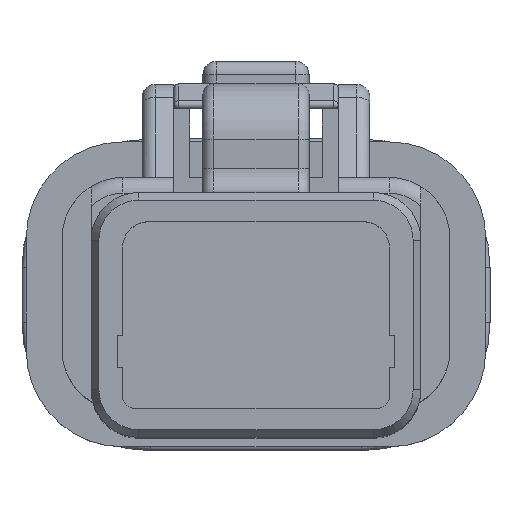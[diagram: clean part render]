
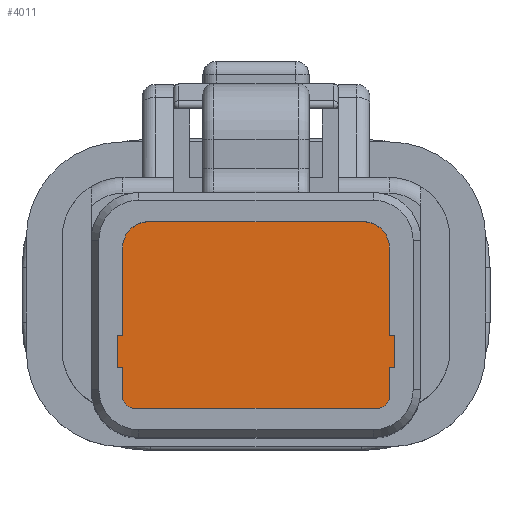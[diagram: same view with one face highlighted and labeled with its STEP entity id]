
A CAD part, top view. The second image highlights one B-rep face of the part: STEP entity #4011.
In plain terms, the highlighted planar face has unit normal (0, 0, 1).
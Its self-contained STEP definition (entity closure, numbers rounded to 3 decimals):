
#302=CARTESIAN_POINT('',(5.817,-3.886,-1.));
#303=DIRECTION('',(0.,0.,1.));
#304=DIRECTION('',(0.,-1.,0.));
#305=AXIS2_PLACEMENT_3D('',#302,#303,#304);
#307=DIRECTION('',(1.,0.,0.));
#308=VECTOR('',#307,11.633);
#309=CARTESIAN_POINT('',(-5.817,-4.47,-1.));
#310=LINE('',#309,#308);
#311=CARTESIAN_POINT('',(-5.817,-3.886,-1.));
#312=DIRECTION('',(0.,0.,1.));
#313=DIRECTION('',(-1.,0.,0.));
#314=AXIS2_PLACEMENT_3D('',#311,#312,#313);
#316=DIRECTION('',(0.,-1.,0.));
#317=VECTOR('',#316,1.372);
#318=CARTESIAN_POINT('',(-6.401,-2.515,-1.));
#319=LINE('',#318,#317);
#320=DIRECTION('',(1.,0.,0.));
#321=VECTOR('',#320,0.254);
#322=CARTESIAN_POINT('',(-6.655,-2.515,-1.));
#323=LINE('',#322,#321);
#324=DIRECTION('',(0.,-1.,0.));
#325=VECTOR('',#324,1.524);
#326=CARTESIAN_POINT('',(-6.655,-0.991,-1.));
#327=LINE('',#326,#325);
#328=DIRECTION('',(-1.,0.,0.));
#329=VECTOR('',#328,0.254);
#330=CARTESIAN_POINT('',(-6.401,-0.991,-1.));
#331=LINE('',#330,#329);
#332=DIRECTION('',(0.,-1.,0.));
#333=VECTOR('',#332,4.191);
#334=CARTESIAN_POINT('',(-6.401,3.2,-1.));
#335=LINE('',#334,#333);
#336=CARTESIAN_POINT('',(-5.131,3.2,-1.));
#337=DIRECTION('',(0.,0.,1.));
#338=DIRECTION('',(0.,1.,0.));
#339=AXIS2_PLACEMENT_3D('',#336,#337,#338);
#341=DIRECTION('',(-1.,0.,0.));
#342=VECTOR('',#341,10.262);
#343=CARTESIAN_POINT('',(5.131,4.47,-1.));
#344=LINE('',#343,#342);
#345=CARTESIAN_POINT('',(5.131,3.2,-1.));
#346=DIRECTION('',(0.,0.,1.));
#347=DIRECTION('',(1.,0.,0.));
#348=AXIS2_PLACEMENT_3D('',#345,#346,#347);
#350=DIRECTION('',(0.,1.,0.));
#351=VECTOR('',#350,4.191);
#352=CARTESIAN_POINT('',(6.401,-0.991,-1.));
#353=LINE('',#352,#351);
#354=DIRECTION('',(-1.,0.,0.));
#355=VECTOR('',#354,0.254);
#356=CARTESIAN_POINT('',(6.655,-0.991,-1.));
#357=LINE('',#356,#355);
#358=DIRECTION('',(0.,1.,0.));
#359=VECTOR('',#358,1.524);
#360=CARTESIAN_POINT('',(6.655,-2.515,-1.));
#361=LINE('',#360,#359);
#362=DIRECTION('',(1.,0.,0.));
#363=VECTOR('',#362,0.254);
#364=CARTESIAN_POINT('',(6.401,-2.515,-1.));
#365=LINE('',#364,#363);
#366=DIRECTION('',(0.,1.,0.));
#367=VECTOR('',#366,1.372);
#368=CARTESIAN_POINT('',(6.401,-3.886,-1.));
#369=LINE('',#368,#367);
#3086=CARTESIAN_POINT('',(5.817,-4.47,-1.));
#3087=CARTESIAN_POINT('',(6.401,-3.886,-1.));
#3088=VERTEX_POINT('',#3086);
#3089=VERTEX_POINT('',#3087);
#3090=CARTESIAN_POINT('',(6.401,-2.515,-1.));
#3091=VERTEX_POINT('',#3090);
#3092=CARTESIAN_POINT('',(6.655,-2.515,-1.));
#3093=VERTEX_POINT('',#3092);
#3094=CARTESIAN_POINT('',(6.655,-0.991,-1.));
#3095=VERTEX_POINT('',#3094);
#3096=CARTESIAN_POINT('',(6.401,-0.991,-1.));
#3097=VERTEX_POINT('',#3096);
#3098=CARTESIAN_POINT('',(6.401,3.2,-1.));
#3099=VERTEX_POINT('',#3098);
#3100=CARTESIAN_POINT('',(5.131,4.47,-1.));
#3101=VERTEX_POINT('',#3100);
#3102=CARTESIAN_POINT('',(-5.131,4.47,-1.));
#3103=VERTEX_POINT('',#3102);
#3104=CARTESIAN_POINT('',(-6.401,3.2,-1.));
#3105=VERTEX_POINT('',#3104);
#3106=CARTESIAN_POINT('',(-6.401,-0.991,-1.));
#3107=VERTEX_POINT('',#3106);
#3108=CARTESIAN_POINT('',(-6.655,-0.991,-1.));
#3109=VERTEX_POINT('',#3108);
#3110=CARTESIAN_POINT('',(-6.655,-2.515,-1.));
#3111=VERTEX_POINT('',#3110);
#3112=CARTESIAN_POINT('',(-6.401,-2.515,-1.));
#3113=VERTEX_POINT('',#3112);
#3114=CARTESIAN_POINT('',(-6.401,-3.886,-1.));
#3115=VERTEX_POINT('',#3114);
#3116=CARTESIAN_POINT('',(-5.817,-4.47,-1.));
#3117=VERTEX_POINT('',#3116);
#3988=CARTESIAN_POINT('',(0.,0.,-1.));
#3989=DIRECTION('',(0.,0.,1.));
#3990=DIRECTION('',(1.,0.,0.));
#3991=AXIS2_PLACEMENT_3D('',#3988,#3989,#3990);
#3992=PLANE('',#3991);
#3993=ORIENTED_EDGE('',*,*,#3772,.F.);
#3994=ORIENTED_EDGE('',*,*,#3787,.F.);
#3995=ORIENTED_EDGE('',*,*,#3801,.F.);
#3996=ORIENTED_EDGE('',*,*,#3815,.F.);
#3997=ORIENTED_EDGE('',*,*,#3829,.F.);
#3998=ORIENTED_EDGE('',*,*,#3843,.F.);
#3999=ORIENTED_EDGE('',*,*,#3857,.F.);
#4000=ORIENTED_EDGE('',*,*,#3871,.F.);
#4001=ORIENTED_EDGE('',*,*,#3885,.F.);
#4002=ORIENTED_EDGE('',*,*,#3899,.F.);
#4003=ORIENTED_EDGE('',*,*,#3913,.F.);
#4004=ORIENTED_EDGE('',*,*,#3927,.F.);
#4005=ORIENTED_EDGE('',*,*,#3941,.F.);
#4006=ORIENTED_EDGE('',*,*,#3955,.F.);
#4007=ORIENTED_EDGE('',*,*,#3969,.F.);
#4008=ORIENTED_EDGE('',*,*,#3982,.F.);
#4009=EDGE_LOOP('',(#3993,#3994,#3995,#3996,#3997,#3998,#3999,#4000,#4001,#4002,
#4003,#4004,#4005,#4006,#4007,#4008));
#4010=FACE_OUTER_BOUND('',#4009,.F.);
#306=CIRCLE('',#305,0.584);
#315=CIRCLE('',#314,0.584);
#340=CIRCLE('',#339,1.27);
#349=CIRCLE('',#348,1.27);
#3772=EDGE_CURVE('',#3088,#3089,#306,.T.);
#3787=EDGE_CURVE('',#3117,#3088,#310,.T.);
#3801=EDGE_CURVE('',#3115,#3117,#315,.T.);
#3815=EDGE_CURVE('',#3113,#3115,#319,.T.);
#3829=EDGE_CURVE('',#3111,#3113,#323,.T.);
#3843=EDGE_CURVE('',#3109,#3111,#327,.T.);
#3857=EDGE_CURVE('',#3107,#3109,#331,.T.);
#3871=EDGE_CURVE('',#3105,#3107,#335,.T.);
#3885=EDGE_CURVE('',#3103,#3105,#340,.T.);
#3899=EDGE_CURVE('',#3101,#3103,#344,.T.);
#3913=EDGE_CURVE('',#3099,#3101,#349,.T.);
#3927=EDGE_CURVE('',#3097,#3099,#353,.T.);
#3941=EDGE_CURVE('',#3095,#3097,#357,.T.);
#3955=EDGE_CURVE('',#3093,#3095,#361,.T.);
#3969=EDGE_CURVE('',#3091,#3093,#365,.T.);
#3982=EDGE_CURVE('',#3089,#3091,#369,.T.);
#4011=ADVANCED_FACE('',(#4010),#3992,.T.);
